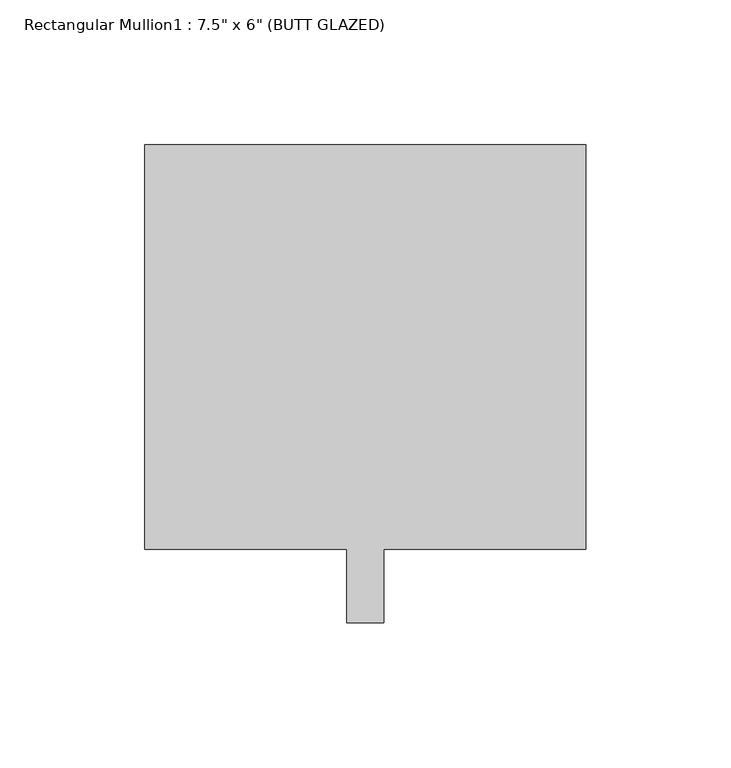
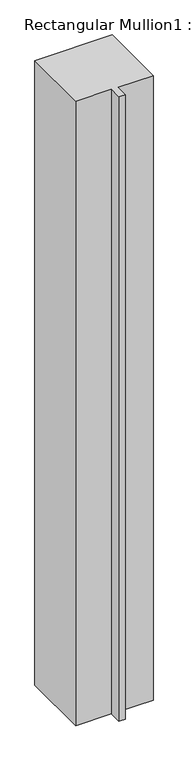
"""IFC4 building model written with IfcOpenShell, lengths in millimetres: member geometry."""

import ifcopenshell
import ifcopenshell.guid

model = None  # the IFC model being written
_history = None  # IfcOwnerHistory: only IFC2X3 demands one
_inside = {}  # id of a spatial element -> (the spatial element, [elements in it])
_under = {}  # id of a project, library or spatial element -> (it, [spatial elements below it])
_declared = {}  # id of a project -> (the project, [libraries it declares])
_typed = {}  # id of a type object -> (the type object, [elements of that type])
_made_of = {}  # id of a material, layer set ... -> (it, [elements and type objects made of it])


def new_model(schema):
    """Start an empty IFC model of exactly this schema.

    Asked for "IFC4X3", IfcOpenShell would pick the latest addendum, in which some entities
    have other attributes; the version numbers below select the first issue.
    IFC2X3 requires an IfcOwnerHistory on every rooted entity: one is made here for all.
    """
    global model, _history
    if schema == "IFC4X3":
        model = ifcopenshell.file(schema_version=(4, 3, 0, 0))
    else:
        model = ifcopenshell.file(schema=schema)
    _inside.clear()
    _under.clear()
    _declared.clear()
    _typed.clear()
    _made_of.clear()
    _history = None
    if model.schema == "IFC2X3":
        org = make("IfcOrganization", Name="unknown")
        user = make(
            "IfcPersonAndOrganization",
            ThePerson=make("IfcPerson", FamilyName="unknown"),
            TheOrganization=org,
        )
        app = make(
            "IfcApplication",
            ApplicationDeveloper=org,
            Version="unknown",
            ApplicationFullName="unknown",
            ApplicationIdentifier="unknown",
        )
        _history = make(
            "IfcOwnerHistory",
            OwningUser=user,
            OwningApplication=app,
            ChangeAction="ADDED",
            CreationDate=0,
        )
    return model


def make(cls, **values):
    """One entity of the class cls with the attributes given. An attribute that is None is left unset."""
    return model.create_entity(
        cls, **{name: value for name, value in values.items() if value is not None}
    )


def rooted(cls, **values):
    """An entity with a GlobalId (a new one), such as an element, a storey or a relation."""
    return make(cls, GlobalId=ifcopenshell.guid.new(), OwnerHistory=_history, **values)


def si_unit(unit_type, name, prefix=None):
    """IfcSIUnit, for example si_unit("LENGTHUNIT", "METRE", prefix="MILLI")."""
    return make("IfcSIUnit", UnitType=unit_type, Prefix=prefix, Name=name)


def assignment(units):
    """IfcUnitAssignment: the units of a project."""
    return None if units is None else make("IfcUnitAssignment", Units=units)


def point(xyz):
    """IfcCartesianPoint."""
    return None if xyz is None else make("IfcCartesianPoint", Coordinates=xyz)


def direction(xyz):
    """IfcDirection."""
    return None if xyz is None else make("IfcDirection", DirectionRatios=xyz)


def frame(location, z_axis=None, x_axis=None):
    """IfcAxis2Placement3D, a coordinate frame: its origin and axes. An axis left out is left unset."""
    return make(
        "IfcAxis2Placement3D",
        Location=point(location),
        Axis=direction(z_axis),
        RefDirection=direction(x_axis),
    )


def origin():
    """The frame at (0, 0, 0) with its axes left unset."""
    return frame((0.0, 0.0, 0.0))


def place(relative_to, where):
    """IfcLocalPlacement: puts the frame where relative to a parent placement (None: the world)."""
    return make(
        "IfcLocalPlacement", PlacementRelTo=relative_to, RelativePlacement=where
    )


def context(
    kind, dimensions, precision=None, world=None, true_north=None, identifier=None
):
    """IfcGeometricRepresentationContext, for example the 3D "Model" context."""
    return make(
        "IfcGeometricRepresentationContext",
        ContextIdentifier=identifier,
        ContextType=kind,
        CoordinateSpaceDimension=dimensions,
        Precision=precision,
        WorldCoordinateSystem=world,
        TrueNorth=true_north,
    )


def project(units=None, contexts=None):
    """IfcProject with its units and contexts."""
    return rooted(
        "IfcProject",
        Name="project",
        RepresentationContexts=contexts,
        UnitsInContext=assignment(units),
    )


def spatial(cls, under=None, at=None, **own):
    """A site, building, storey or space (cls), placed at a placement, below another one or the project."""
    s = rooted(cls, ObjectPlacement=at, **own)
    if under is not None:
        _under.setdefault(under.id(), (under, []))[1].append(s)
    return s


def polyline(points):
    """IfcPolyline through the points."""
    return make("IfcPolyline", Points=[point(p) for p in points])


def outline(outer, holes=None, kind="AREA"):
    """IfcArbitraryClosedProfileDef: a profile drawn as a closed curve; with holes, ...WithVoids."""
    if holes is None:
        return make("IfcArbitraryClosedProfileDef", ProfileType=kind, OuterCurve=outer)
    return make(
        "IfcArbitraryProfileDefWithVoids",
        ProfileType=kind,
        OuterCurve=outer,
        InnerCurves=holes,
    )


def extrude(swept, where, along, depth):
    """IfcExtrudedAreaSolid: the profile swept, set in the frame where, extruded along a direction by depth."""
    return make(
        "IfcExtrudedAreaSolid",
        SweptArea=swept,
        Position=where,
        ExtrudedDirection=direction(along),
        Depth=depth,
    )


def shape(context_of_items, identifier, shape_type, items):
    """IfcShapeRepresentation: the items that make up one representation, for example the "Body"."""
    return make(
        "IfcShapeRepresentation",
        ContextOfItems=context_of_items,
        RepresentationIdentifier=identifier,
        RepresentationType=shape_type,
        Items=items,
    )


def source(mapping_origin, context_of_items, identifier, shape_type, items):
    """IfcRepresentationMap: a shape defined once, which mapped items show again and again."""
    return make(
        "IfcRepresentationMap",
        MappingOrigin=mapping_origin,
        MappedRepresentation=shape(context_of_items, identifier, shape_type, items),
    )


def transform(
    local_origin,
    x_axis=None,
    y_axis=None,
    z_axis=None,
    scale=None,
    scale2=None,
    scale3=None,
    uniform=True,
):
    """IfcCartesianTransformationOperator3D, or its non-uniform kind. x_axis, y_axis, z_axis: its Axis1, 2, 3."""
    if uniform:
        return make(
            "IfcCartesianTransformationOperator3D",
            Axis1=direction(x_axis),
            Axis2=direction(y_axis),
            LocalOrigin=point(local_origin),
            Scale=scale,
            Axis3=direction(z_axis),
        )
    return make(
        "IfcCartesianTransformationOperator3DnonUniform",
        Axis1=direction(x_axis),
        Axis2=direction(y_axis),
        LocalOrigin=point(local_origin),
        Scale=scale,
        Axis3=direction(z_axis),
        Scale2=scale2,
        Scale3=scale3,
    )


def mapped(mapping_source, mapping_target):
    """IfcMappedItem: shows the shape of a source again, moved by a transform."""
    return make(
        "IfcMappedItem", MappingSource=mapping_source, MappingTarget=mapping_target
    )


def made_of(thing, what):
    """Note that an element or type object is made of a material, layer set ...; save() writes the relation."""
    if what is not None:
        _made_of.setdefault(what.id(), (what, []))[1].append(thing)
    return thing


def element(
    cls,
    number,
    at=None,
    inside=None,
    cuts=None,
    type_object=None,
    material=None,
    context=None,
    identifier="Body",
    shape_type=None,
    held_by="IfcProductDefinitionShape",
    body=None,
    shapes=None,
    **own,
):
    """One element of the class cls, such as IfcWall. Its Tag is "e" and its number.

    at: its placement. inside: the storey or other place that contains it. cuts: it is an
    opening in that element (IfcRelVoidsElement). A single representation is given by context,
    identifier, shape_type and body (its items); several are given by shapes. held_by: the class
    of the entity that holds the representations. save() writes the other relations.
    """
    e = rooted(cls, Tag="e%d" % number, ObjectPlacement=at, **own)
    if body is not None:
        shapes = [shape(context, identifier, shape_type, body)]
    if shapes is not None:
        e.Representation = make(held_by, Representations=shapes)
    if inside is not None:
        _inside.setdefault(inside.id(), (inside, []))[1].append(e)
    if cuts is not None:
        rooted(
            "IfcRelVoidsElement", RelatingBuildingElement=cuts, RelatedOpeningElement=e
        )
    if type_object is not None:
        _typed.setdefault(type_object.id(), (type_object, []))[1].append(e)
    return made_of(e, material)


def aggregate(whole, parts):
    """IfcRelAggregates: a whole, such as a stair, and the parts it consists of."""
    return rooted("IfcRelAggregates", RelatingObject=whole, RelatedObjects=parts)


def save(model, path):
    """Write the relations noted so far, then the file.

    IfcRelAggregates (storeys below a building ...), IfcRelContainedInSpatialStructure (elements
    in a storey), IfcRelDefinesByType, IfcRelAssociatesMaterial and IfcRelDeclares: one each for
    every whole, place, type object, material and project.
    """
    for whole, parts in _under.values():
        aggregate(whole, parts)
    for where, things in _inside.values():
        rooted(
            "IfcRelContainedInSpatialStructure",
            RelatedElements=things,
            RelatingStructure=where,
        )
    for kind, things in _typed.values():
        rooted("IfcRelDefinesByType", RelatedObjects=things, RelatingType=kind)
    for what, things in _made_of.values():
        rooted("IfcRelAssociatesMaterial", RelatedObjects=things, RelatingMaterial=what)
    for by, libraries in _declared.values():
        rooted("IfcRelDeclares", RelatingContext=by, RelatedDefinitions=libraries)
    model.write(path)


def member_a334f5f3(model_context):
    return source(origin(), model_context, "Body", "SweptSolid", [
        extrude(outline(polyline([(76.2, 165.1), (76.2, 25.4), (6.35, 25.4), (6.35, 0.0), (-6.35, 0.0), (-6.35, 25.4), (-76.2, 25.4), (-76.2, 165.1), (76.2, 165.1)])), frame((0.0, 0.0, -1301.0082852), z_axis=(0.0, 0.0, 1.0), x_axis=(1.0, 0.0, 0.0)), (0.0, 0.0, 1.0), 1301.0082852),
    ])


if __name__ == "__main__":
    model = new_model("IFC4")
    model_context = context("Model", 3, world=origin())
    ifc_project = project(units=[si_unit("LENGTHUNIT", "METRE", prefix="MILLI")], contexts=[model_context])
    site = spatial("IfcSite", under=ifc_project)
    building = spatial("IfcBuilding", under=site)
    placement = place(None, origin())
    member_shape = member_a334f5f3(model_context)
    element("IfcMember", 1, ObjectType="Rectangular Mullion1 : 7.5\" x 6\" (BUTT GLAZED)", at=placement, inside=building, context=model_context, shape_type="MappedRepresentation", body=[
        mapped(member_shape, transform((0.0, 0.0, 0.0), x_axis=(1.0, 0.0, 0.0), y_axis=(0.0, 1.0, 0.0), z_axis=(0.0, 0.0, 1.0))),
    ])
    save(model, "model.ifc")
